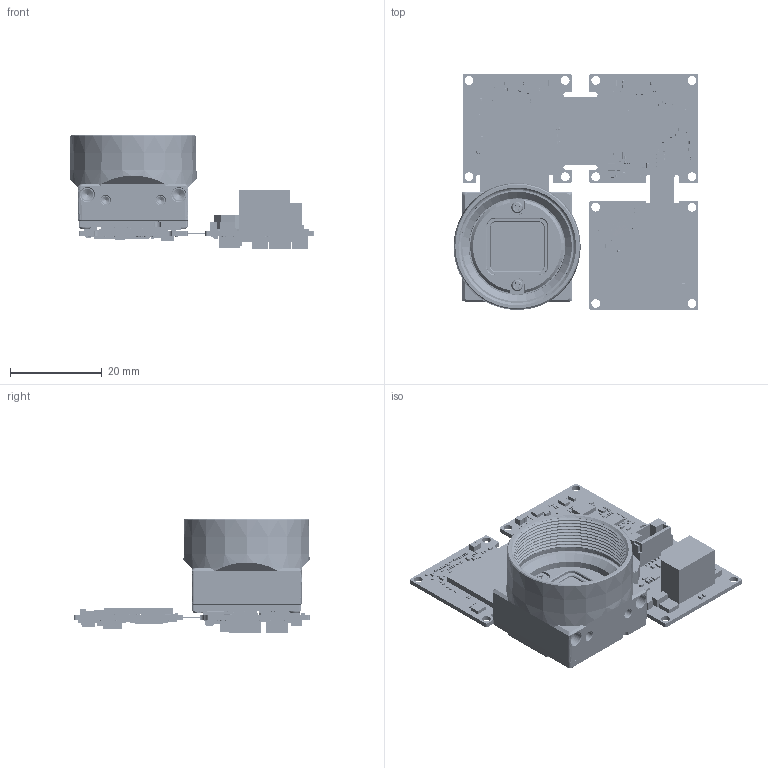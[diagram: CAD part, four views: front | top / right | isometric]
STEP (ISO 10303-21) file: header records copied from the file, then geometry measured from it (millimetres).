
FILE_DESCRIPTION (( 'STEP AP203' ), '1' );
FILE_NAME ('246-758-A_PHX24 C-MOUNT-IX_OPEN.STEP', '2018-09-22T03:04:35', ( '' ), ( '' ), 'SwSTEP 2.0', 'SolidWorks 2017', '' );
FILE_SCHEMA (( 'CONFIG_CONTROL_DESIGN' ));
Products named in the file (1): 246-758-A_PHX24 C-MOUNT-IX_OPEN
Bounding box: 53.41 x 51.49 x 24.85 mm (x, y, z)
Surface area: 16357.2 mm2 (no closed solid volume)
Topology: 0 solids, 672 shells, 22055 faces, 51586 edges, 27259 vertices
Faces by surface type: plane 9488, cylinder 8091, bspline 4309, cone 119, torus 46, sphere 2
Full cylindrical faces by diameter (mm): 0.099 x1, 0.177 x1, 0.206 x2, 1 x2, 1.05 x1, 1.1 x2, 1.2 x1, 1.35 x6, 1.6 x4, 1.7 x10, 1.8 x4, 1.9 x16, 2 x4, 2.5 x4, 3 x4, 25.5 x1
Entity records: 631372 total; most frequent: CARTESIAN_POINT 166642, DIRECTION 98240, ORIENTED_EDGE 94308, EDGE_CURVE 47156, AXIS2_PLACEMENT_3D 33952, VECTOR 30336, LINE 30336, VERTEX_POINT 27212
